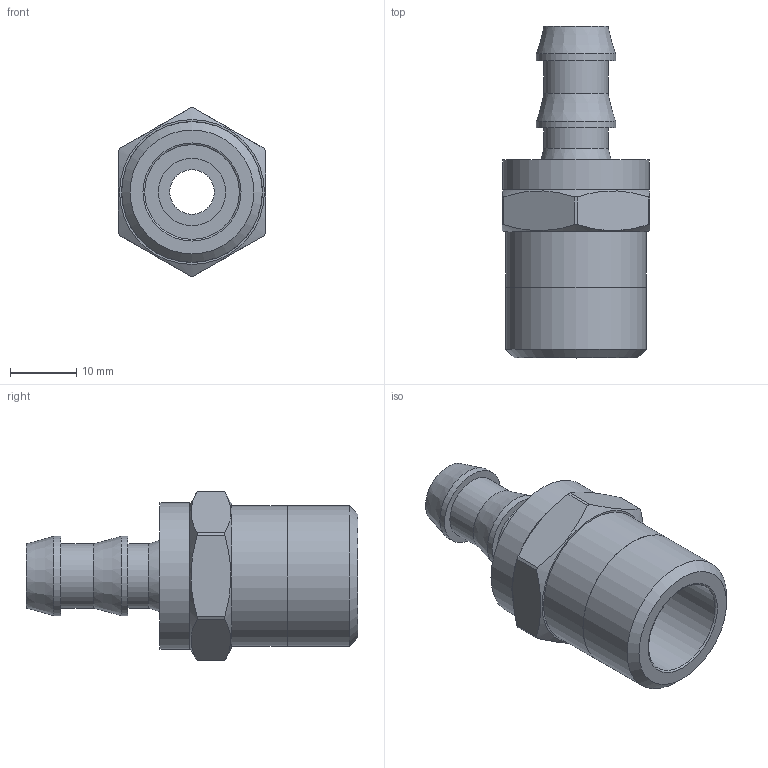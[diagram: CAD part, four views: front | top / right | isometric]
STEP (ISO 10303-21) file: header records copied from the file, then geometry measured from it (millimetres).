
FILE_DESCRIPTION(/* description */ (''),/* implementation_level */ '2;1');
FILE_NAME(/* name */ 'C:/Users/drich/Desktop/PLM-06-08 v1.step',/* time_stamp */ '2020-02-02T14:45:54-06:00',/* author */ (''),/* organization */ (''),/* preprocessor_version */ 'ST-DEVELOPER v18',/* originating_system */ 'Autodesk Translation Framework v8.12.0.6',/* authorisation */ '');
FILE_SCHEMA (('AUTOMOTIVE_DESIGN { 1 0 10303 214 3 1 1 }'));
Length unit declared in the file: inch
Products named in the file (3): PLM-06-08; -06 BARB ONLY; FW-8
Assembly tree (2 placements, depth 2):
  PLM-06-08
    -06 BARB ONLY
    FW-8
Bounding box: 22.23 x 50.04 x 25.4 mm (x, y, z)
Volume: 7702.3 mm3; surface area: 6035.6 mm2
Topology: 3 solids, 3 shells, 47 faces, 124 edges, 90 vertices
Faces by surface type: cylinder 20, plane 19, cone 7, torus 1
Full cylindrical faces by diameter (mm): 6.731 x1, 9.652 x2, 10.16 x1, 10.312 x1, 11.684 x1, 11.938 x3, 14.275 x1, 19.558 x1, 21.209 x1, 21.26 x1, 22.098 x1
Entity records: 1635 total; most frequent: DIRECTION 295, CARTESIAN_POINT 290, ORIENTED_EDGE 248, AXIS2_PLACEMENT_3D 131, EDGE_CURVE 124, VERTEX_POINT 90, CIRCLE 79, EDGE_LOOP 60
